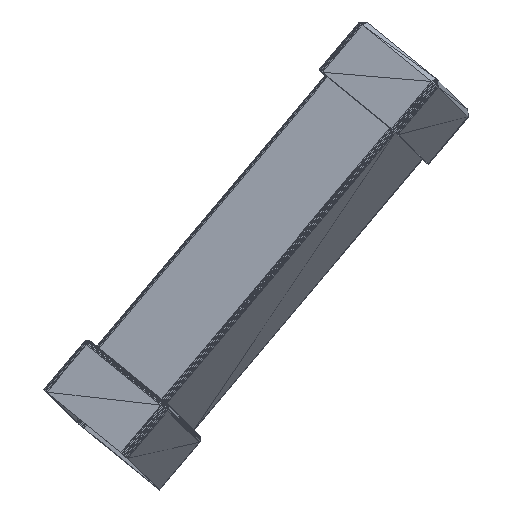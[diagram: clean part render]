
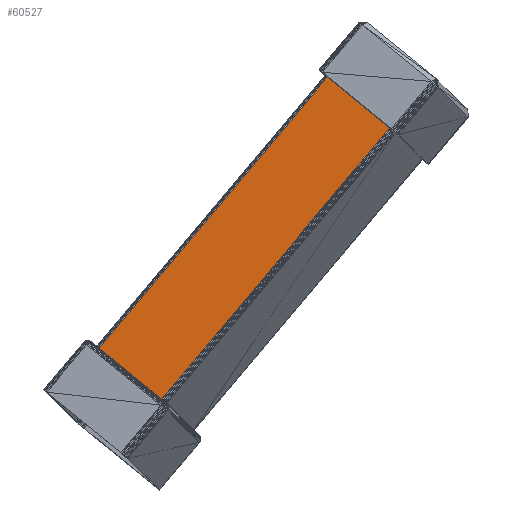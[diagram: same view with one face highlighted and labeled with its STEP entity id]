
A CAD part, left-side view. The second image highlights one B-rep face of the part: STEP entity #60527.
In plain terms, the highlighted planar face has unit normal (-0.906, 0.302, 0.296).
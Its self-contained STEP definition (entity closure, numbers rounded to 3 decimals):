
#11166 = VERTEX_POINT('',#11167);
#11167 = CARTESIAN_POINT('',(-19.802,23.617,
    54.051));
#11207 = PLANE('',#11208);
#11208 = AXIS2_PLACEMENT_3D('',#11209,#11210,#11211);
#11209 = CARTESIAN_POINT('',(-14.95,-62.46,
    156.614));
#11210 = DIRECTION('',(-0.87,0.357,0.34));
#11211 = DIRECTION('',(-0.379,-0.925,
    0.));
#13298 = PLANE('',#13299);
#13299 = AXIS2_PLACEMENT_3D('',#13300,#13301,#13302);
#13300 = CARTESIAN_POINT('',(-36.811,-1.632,
    33.551));
#13301 = DIRECTION('',(0.035,-0.644,0.764)
  );
#13302 = DIRECTION('',(0.,0.765,0.644));
#14800 = VERTEX_POINT('',#14801);
#14801 = CARTESIAN_POINT('',(-33.95,0.058,
    34.844));
#14827 = EDGE_CURVE('',#14800,#11166,#14828,.T.);
#14828 = SURFACE_CURVE('',#14829,(#14833,#14840),.PCURVE_S1.);
#14829 = LINE('',#14830,#14831);
#14830 = CARTESIAN_POINT('',(-33.95,0.058,
    34.844));
#14831 = VECTOR('',#14832,1.);
#14832 = DIRECTION('',(0.422,0.703,0.573));
#14833 = PCURVE('',#13298,#14834);
#14834 = DEFINITIONAL_REPRESENTATION('',(#14835),#14839);
#14835 = LINE('',#14836,#14837);
#14836 = CARTESIAN_POINT('',(2.125,-2.862));
#14837 = VECTOR('',#14838,1.);
#14838 = DIRECTION('',(0.906,-0.422));
#14839 = ( GEOMETRIC_REPRESENTATION_CONTEXT(2) 
PARAMETRIC_REPRESENTATION_CONTEXT() REPRESENTATION_CONTEXT('2D SPACE',''
  ) );
#14840 = PCURVE('',#14841,#14846);
#14841 = PLANE('',#14842);
#14842 = AXIS2_PLACEMENT_3D('',#14843,#14844,#14845);
#14843 = CARTESIAN_POINT('',(-15.107,-62.676,
    156.44));
#14844 = DIRECTION('',(-0.906,0.302,0.296));
#14845 = DIRECTION('',(-0.317,-0.949,0.));
#14846 = DEFINITIONAL_REPRESENTATION('',(#14847),#14851);
#14847 = LINE('',#14848,#14849);
#14848 = CARTESIAN_POINT('',(-53.54,-127.317));
#14849 = VECTOR('',#14850,1.);
#14850 = DIRECTION('',(-0.8,0.6));
#14851 = ( GEOMETRIC_REPRESENTATION_CONTEXT(2) 
PARAMETRIC_REPRESENTATION_CONTEXT() REPRESENTATION_CONTEXT('2D SPACE',''
  ) );
#17609 = PLANE('',#17610);
#17610 = AXIS2_PLACEMENT_3D('',#17611,#17612,#17613);
#17611 = CARTESIAN_POINT('',(-29.254,-86.235,
    137.233));
#17612 = DIRECTION('',(-0.936,0.246,0.251));
#17613 = DIRECTION('',(-0.259,0.,-0.966));
#58882 = VERTEX_POINT('',#58883);
#58883 = CARTESIAN_POINT('',(-15.107,-62.676,
    156.44));
#59728 = EDGE_CURVE('',#11166,#58882,#59729,.T.);
#59729 = SURFACE_CURVE('',#59730,(#59734,#59741),.PCURVE_S1.);
#59730 = LINE('',#59731,#59732);
#59731 = CARTESIAN_POINT('',(-19.802,23.617,
    54.051));
#59732 = VECTOR('',#59733,1.);
#59733 = DIRECTION('',(0.035,-0.644,0.764
    ));
#59734 = PCURVE('',#11207,#59735);
#59735 = DEFINITIONAL_REPRESENTATION('',(#59736),#59740);
#59736 = LINE('',#59737,#59738);
#59737 = CARTESIAN_POINT('',(-77.807,-109.079));
#59738 = VECTOR('',#59739,1.);
#59739 = DIRECTION('',(0.583,0.813));
#59740 = ( GEOMETRIC_REPRESENTATION_CONTEXT(2) 
PARAMETRIC_REPRESENTATION_CONTEXT() REPRESENTATION_CONTEXT('2D SPACE',''
  ) );
#59741 = PCURVE('',#14841,#59742);
#59742 = DEFINITIONAL_REPRESENTATION('',(#59743),#59747);
#59743 = LINE('',#59744,#59745);
#59744 = CARTESIAN_POINT('',(-80.367,-107.206));
#59745 = VECTOR('',#59746,1.);
#59746 = DIRECTION('',(0.6,0.8));
#59747 = ( GEOMETRIC_REPRESENTATION_CONTEXT(2) 
PARAMETRIC_REPRESENTATION_CONTEXT() REPRESENTATION_CONTEXT('2D SPACE',''
  ) );
#59962 = PLANE('',#59963);
#59963 = AXIS2_PLACEMENT_3D('',#59964,#59965,#59966);
#59964 = CARTESIAN_POINT('',(-15.107,-62.676,
    156.44));
#59965 = DIRECTION('',(-0.035,0.644,
    -0.764));
#59966 = DIRECTION('',(0.,-0.765,
    -0.644));
#60527 = ADVANCED_FACE('',(#60528),#14841,.T.);
#60528 = FACE_BOUND('',#60529,.T.);
#60529 = EDGE_LOOP('',(#60530,#60531,#60532,#60555));
#60530 = ORIENTED_EDGE('',*,*,#59728,.F.);
#60531 = ORIENTED_EDGE('',*,*,#14827,.F.);
#60532 = ORIENTED_EDGE('',*,*,#60533,.T.);
#60533 = EDGE_CURVE('',#14800,#60534,#60536,.T.);
#60534 = VERTEX_POINT('',#60535);
#60535 = CARTESIAN_POINT('',(-29.254,-86.235,
    137.233));
#60536 = SURFACE_CURVE('',#60537,(#60541,#60548),.PCURVE_S1.);
#60537 = LINE('',#60538,#60539);
#60538 = CARTESIAN_POINT('',(-33.95,0.058,
    34.844));
#60539 = VECTOR('',#60540,1.);
#60540 = DIRECTION('',(0.035,-0.644,0.764
    ));
#60541 = PCURVE('',#14841,#60542);
#60542 = DEFINITIONAL_REPRESENTATION('',(#60543),#60547);
#60543 = LINE('',#60544,#60545);
#60544 = CARTESIAN_POINT('',(-53.54,-127.317));
#60545 = VECTOR('',#60546,1.);
#60546 = DIRECTION('',(0.6,0.8));
#60547 = ( GEOMETRIC_REPRESENTATION_CONTEXT(2) 
PARAMETRIC_REPRESENTATION_CONTEXT() REPRESENTATION_CONTEXT('2D SPACE',''
  ) );
#60548 = PCURVE('',#17609,#60549);
#60549 = DEFINITIONAL_REPRESENTATION('',(#60550),#60554);
#60550 = LINE('',#60551,#60552);
#60551 = CARTESIAN_POINT('',(100.122,-89.036));
#60552 = VECTOR('',#60553,1.);
#60553 = DIRECTION('',(-0.747,0.665));
#60554 = ( GEOMETRIC_REPRESENTATION_CONTEXT(2) 
PARAMETRIC_REPRESENTATION_CONTEXT() REPRESENTATION_CONTEXT('2D SPACE',''
  ) );
#60555 = ORIENTED_EDGE('',*,*,#60556,.T.);
#60556 = EDGE_CURVE('',#60534,#58882,#60557,.T.);
#60557 = SURFACE_CURVE('',#60558,(#60562,#60569),.PCURVE_S1.);
#60558 = LINE('',#60559,#60560);
#60559 = CARTESIAN_POINT('',(-29.254,-86.235,
    137.233));
#60560 = VECTOR('',#60561,1.);
#60561 = DIRECTION('',(0.422,0.703,0.573));
#60562 = PCURVE('',#14841,#60563);
#60563 = DEFINITIONAL_REPRESENTATION('',(#60564),#60568);
#60564 = LINE('',#60565,#60566);
#60565 = CARTESIAN_POINT('',(26.827,-20.111));
#60566 = VECTOR('',#60567,1.);
#60567 = DIRECTION('',(-0.8,0.6));
#60568 = ( GEOMETRIC_REPRESENTATION_CONTEXT(2) 
PARAMETRIC_REPRESENTATION_CONTEXT() REPRESENTATION_CONTEXT('2D SPACE',''
  ) );
#60569 = PCURVE('',#59962,#60570);
#60570 = DEFINITIONAL_REPRESENTATION('',(#60571),#60575);
#60571 = LINE('',#60572,#60573);
#60572 = CARTESIAN_POINT('',(30.393,14.157));
#60573 = VECTOR('',#60574,1.);
#60574 = DIRECTION('',(-0.906,-0.422));
#60575 = ( GEOMETRIC_REPRESENTATION_CONTEXT(2) 
PARAMETRIC_REPRESENTATION_CONTEXT() REPRESENTATION_CONTEXT('2D SPACE',''
  ) );
